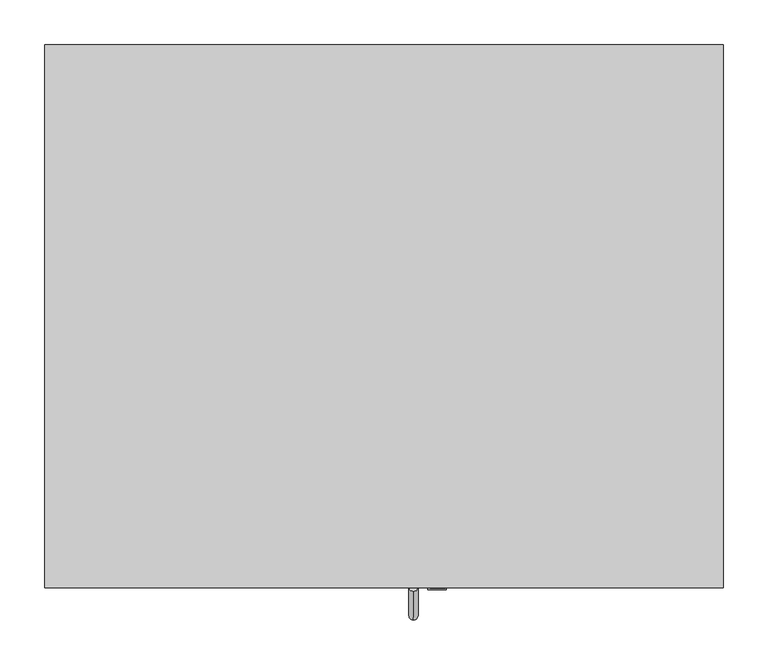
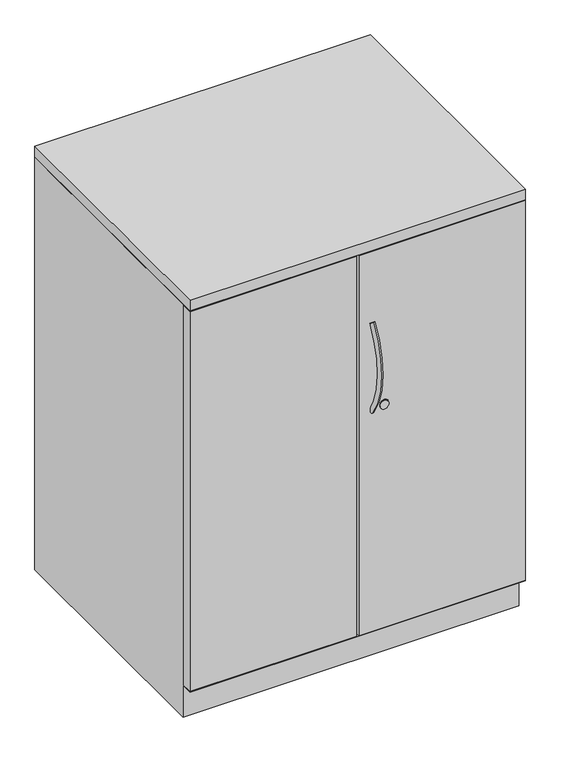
"""IFC4 building model written with IfcOpenShell, lengths in millimetres: furniture geometry, Steelcase - Universal Storage - Cabinet - Storage - 40H-52H - Proud Steel : 40H x 23 1/8D x 30W."""

import ifcopenshell
import ifcopenshell.guid

model = None  # the IFC model being written
_history = None  # IfcOwnerHistory: only IFC2X3 demands one
_inside = {}  # id of a spatial element -> (the spatial element, [elements in it])
_under = {}  # id of a project, library or spatial element -> (it, [spatial elements below it])
_declared = {}  # id of a project -> (the project, [libraries it declares])
_typed = {}  # id of a type object -> (the type object, [elements of that type])
_made_of = {}  # id of a material, layer set ... -> (it, [elements and type objects made of it])


def new_model(schema):
    """Start an empty IFC model of exactly this schema.

    Asked for "IFC4X3", IfcOpenShell would pick the latest addendum, in which some entities
    have other attributes; the version numbers below select the first issue.
    IFC2X3 requires an IfcOwnerHistory on every rooted entity: one is made here for all.
    """
    global model, _history
    if schema == "IFC4X3":
        model = ifcopenshell.file(schema_version=(4, 3, 0, 0))
    else:
        model = ifcopenshell.file(schema=schema)
    _inside.clear()
    _under.clear()
    _declared.clear()
    _typed.clear()
    _made_of.clear()
    _history = None
    if model.schema == "IFC2X3":
        org = make("IfcOrganization", Name="unknown")
        user = make(
            "IfcPersonAndOrganization",
            ThePerson=make("IfcPerson", FamilyName="unknown"),
            TheOrganization=org,
        )
        app = make(
            "IfcApplication",
            ApplicationDeveloper=org,
            Version="unknown",
            ApplicationFullName="unknown",
            ApplicationIdentifier="unknown",
        )
        _history = make(
            "IfcOwnerHistory",
            OwningUser=user,
            OwningApplication=app,
            ChangeAction="ADDED",
            CreationDate=0,
        )
    return model


def make(cls, **values):
    """One entity of the class cls with the attributes given. An attribute that is None is left unset."""
    return model.create_entity(
        cls, **{name: value for name, value in values.items() if value is not None}
    )


def rooted(cls, **values):
    """An entity with a GlobalId (a new one), such as an element, a storey or a relation."""
    return make(cls, GlobalId=ifcopenshell.guid.new(), OwnerHistory=_history, **values)


def si_unit(unit_type, name, prefix=None):
    """IfcSIUnit, for example si_unit("LENGTHUNIT", "METRE", prefix="MILLI")."""
    return make("IfcSIUnit", UnitType=unit_type, Prefix=prefix, Name=name)


def assignment(units):
    """IfcUnitAssignment: the units of a project."""
    return None if units is None else make("IfcUnitAssignment", Units=units)


def point(xyz):
    """IfcCartesianPoint."""
    return None if xyz is None else make("IfcCartesianPoint", Coordinates=xyz)


def direction(xyz):
    """IfcDirection."""
    return None if xyz is None else make("IfcDirection", DirectionRatios=xyz)


def frame(location, z_axis=None, x_axis=None):
    """IfcAxis2Placement3D, a coordinate frame: its origin and axes. An axis left out is left unset."""
    return make(
        "IfcAxis2Placement3D",
        Location=point(location),
        Axis=direction(z_axis),
        RefDirection=direction(x_axis),
    )


def frame_2d(location, x_axis=None):
    """IfcAxis2Placement2D, a coordinate frame in the plane: its origin and x axis."""
    return make(
        "IfcAxis2Placement2D", Location=point(location), RefDirection=direction(x_axis)
    )


def origin():
    """The frame at (0, 0, 0) with its axes left unset."""
    return frame((0.0, 0.0, 0.0))


def place(relative_to, where):
    """IfcLocalPlacement: puts the frame where relative to a parent placement (None: the world)."""
    return make(
        "IfcLocalPlacement", PlacementRelTo=relative_to, RelativePlacement=where
    )


def context(
    kind, dimensions, precision=None, world=None, true_north=None, identifier=None
):
    """IfcGeometricRepresentationContext, for example the 3D "Model" context."""
    return make(
        "IfcGeometricRepresentationContext",
        ContextIdentifier=identifier,
        ContextType=kind,
        CoordinateSpaceDimension=dimensions,
        Precision=precision,
        WorldCoordinateSystem=world,
        TrueNorth=true_north,
    )


def project(units=None, contexts=None):
    """IfcProject with its units and contexts."""
    return rooted(
        "IfcProject",
        Name="project",
        RepresentationContexts=contexts,
        UnitsInContext=assignment(units),
    )


def spatial(cls, under=None, at=None, **own):
    """A site, building, storey or space (cls), placed at a placement, below another one or the project."""
    s = rooted(cls, ObjectPlacement=at, **own)
    if under is not None:
        _under.setdefault(under.id(), (under, []))[1].append(s)
    return s


def polyline(points):
    """IfcPolyline through the points."""
    return make("IfcPolyline", Points=[point(p) for p in points])


def circle_curve(where, radius):
    """IfcCircle in the frame where."""
    return make("IfcCircle", Position=where, Radius=radius)


def ellipse_curve(where, semi_axis1, semi_axis2):
    """IfcEllipse in the frame where."""
    return make(
        "IfcEllipse", Position=where, SemiAxis1=semi_axis1, SemiAxis2=semi_axis2
    )


def trimmed(basis, trim1, trim2, sense, master):
    """IfcTrimmedCurve: the piece of a basis curve between two trims."""
    return make(
        "IfcTrimmedCurve",
        BasisCurve=basis,
        Trim1=trim1,
        Trim2=trim2,
        SenseAgreement=sense,
        MasterRepresentation=master,
    )


def segment(curve, same_sense, transition):
    """IfcCompositeCurveSegment."""
    return make(
        "IfcCompositeCurveSegment",
        Transition=transition,
        SameSense=same_sense,
        ParentCurve=curve,
    )


def composite_curve(segments, self_intersect=None):
    """IfcCompositeCurve: segments joined end to end."""
    return make("IfcCompositeCurve", Segments=segments, SelfIntersect=self_intersect)


def outline(outer, holes=None, kind="AREA"):
    """IfcArbitraryClosedProfileDef: a profile drawn as a closed curve; with holes, ...WithVoids."""
    if holes is None:
        return make("IfcArbitraryClosedProfileDef", ProfileType=kind, OuterCurve=outer)
    return make(
        "IfcArbitraryProfileDefWithVoids",
        ProfileType=kind,
        OuterCurve=outer,
        InnerCurves=holes,
    )


def extrude(swept, where, along, depth):
    """IfcExtrudedAreaSolid: the profile swept, set in the frame where, extruded along a direction by depth."""
    return make(
        "IfcExtrudedAreaSolid",
        SweptArea=swept,
        Position=where,
        ExtrudedDirection=direction(along),
        Depth=depth,
    )


def faces_of(points, faces, orient=None, outer=None):
    """IfcFace entities. A face is a list of loops; a loop is a list of indices into points, from 0.

    orient and outer hold one flag for each loop. By default every Orientation is true, the
    first loop of a face is its IfcFaceOuterBound and the others are IfcFaceBound.
    """
    made = []
    for i, loops in enumerate(faces):
        bounds = []
        for j, loop in enumerate(loops):
            is_outer = j == 0 if outer is None else outer[i][j]
            bounds.append(
                make(
                    "IfcFaceOuterBound" if is_outer else "IfcFaceBound",
                    Bound=make("IfcPolyLoop", Polygon=[points[k] for k in loop]),
                    Orientation=True if orient is None else orient[i][j],
                )
            )
        made.append(make("IfcFace", Bounds=bounds))
    return made


def faceted_brep(points, faces, orient=None, outer=None, voids=None):
    """IfcFacetedBrep: a solid bounded by flat faces; with voids (closed shells), ...WithVoids."""
    shared = [point(p) for p in points]
    hull = make("IfcClosedShell", CfsFaces=faces_of(shared, faces, orient, outer))
    if voids is None:
        return make("IfcFacetedBrep", Outer=hull)
    return make(
        "IfcFacetedBrepWithVoids",
        Outer=hull,
        Voids=[
            make(cls, CfsFaces=faces_of(shared, fs, o, b)) for cls, fs, o, b in voids
        ],
    )


def shape(context_of_items, identifier, shape_type, items):
    """IfcShapeRepresentation: the items that make up one representation, for example the "Body"."""
    return make(
        "IfcShapeRepresentation",
        ContextOfItems=context_of_items,
        RepresentationIdentifier=identifier,
        RepresentationType=shape_type,
        Items=items,
    )


def source(mapping_origin, context_of_items, identifier, shape_type, items):
    """IfcRepresentationMap: a shape defined once, which mapped items show again and again."""
    return make(
        "IfcRepresentationMap",
        MappingOrigin=mapping_origin,
        MappedRepresentation=shape(context_of_items, identifier, shape_type, items),
    )


def transform(
    local_origin,
    x_axis=None,
    y_axis=None,
    z_axis=None,
    scale=None,
    scale2=None,
    scale3=None,
    uniform=True,
):
    """IfcCartesianTransformationOperator3D, or its non-uniform kind. x_axis, y_axis, z_axis: its Axis1, 2, 3."""
    if uniform:
        return make(
            "IfcCartesianTransformationOperator3D",
            Axis1=direction(x_axis),
            Axis2=direction(y_axis),
            LocalOrigin=point(local_origin),
            Scale=scale,
            Axis3=direction(z_axis),
        )
    return make(
        "IfcCartesianTransformationOperator3DnonUniform",
        Axis1=direction(x_axis),
        Axis2=direction(y_axis),
        LocalOrigin=point(local_origin),
        Scale=scale,
        Axis3=direction(z_axis),
        Scale2=scale2,
        Scale3=scale3,
    )


def mapped(mapping_source, mapping_target):
    """IfcMappedItem: shows the shape of a source again, moved by a transform."""
    return make(
        "IfcMappedItem", MappingSource=mapping_source, MappingTarget=mapping_target
    )


def made_of(thing, what):
    """Note that an element or type object is made of a material, layer set ...; save() writes the relation."""
    if what is not None:
        _made_of.setdefault(what.id(), (what, []))[1].append(thing)
    return thing


def element(
    cls,
    number,
    at=None,
    inside=None,
    cuts=None,
    type_object=None,
    material=None,
    context=None,
    identifier="Body",
    shape_type=None,
    held_by="IfcProductDefinitionShape",
    body=None,
    shapes=None,
    **own,
):
    """One element of the class cls, such as IfcWall. Its Tag is "e" and its number.

    at: its placement. inside: the storey or other place that contains it. cuts: it is an
    opening in that element (IfcRelVoidsElement). A single representation is given by context,
    identifier, shape_type and body (its items); several are given by shapes. held_by: the class
    of the entity that holds the representations. save() writes the other relations.
    """
    e = rooted(cls, Tag="e%d" % number, ObjectPlacement=at, **own)
    if body is not None:
        shapes = [shape(context, identifier, shape_type, body)]
    if shapes is not None:
        e.Representation = make(held_by, Representations=shapes)
    if inside is not None:
        _inside.setdefault(inside.id(), (inside, []))[1].append(e)
    if cuts is not None:
        rooted(
            "IfcRelVoidsElement", RelatingBuildingElement=cuts, RelatedOpeningElement=e
        )
    if type_object is not None:
        _typed.setdefault(type_object.id(), (type_object, []))[1].append(e)
    return made_of(e, material)


def aggregate(whole, parts):
    """IfcRelAggregates: a whole, such as a stair, and the parts it consists of."""
    return rooted("IfcRelAggregates", RelatingObject=whole, RelatedObjects=parts)


def save(model, path):
    """Write the relations noted so far, then the file.

    IfcRelAggregates (storeys below a building ...), IfcRelContainedInSpatialStructure (elements
    in a storey), IfcRelDefinesByType, IfcRelAssociatesMaterial and IfcRelDeclares: one each for
    every whole, place, type object, material and project.
    """
    for whole, parts in _under.values():
        aggregate(whole, parts)
    for where, things in _inside.values():
        rooted(
            "IfcRelContainedInSpatialStructure",
            RelatedElements=things,
            RelatingStructure=where,
        )
    for kind, things in _typed.values():
        rooted("IfcRelDefinesByType", RelatedObjects=things, RelatingType=kind)
    for what, things in _made_of.values():
        rooted("IfcRelAssociatesMaterial", RelatedObjects=things, RelatingMaterial=what)
    for by, libraries in _declared.values():
        rooted("IfcRelDeclares", RelatingContext=by, RelatedDefinitions=libraries)
    model.write(path)


def plane_surface(at):
    """IfcPlane: the flat surface through the origin of the frame at, square to its z axis."""
    return make("IfcPlane", Position=at)


def revolved_surface(curve, axis_point, axis_direction):
    """IfcSurfaceOfRevolution: the curve turned about the line through axis_point along axis_direction."""
    return make(
        "IfcSurfaceOfRevolution",
        SweptCurve=make("IfcArbitraryOpenProfileDef", ProfileType="CURVE", Curve=curve),
        AxisPosition=make("IfcAxis1Placement", Location=point(axis_point), Axis=direction(axis_direction)),
    )


def advanced_brep(points, edges, surfaces, faces):
    """IfcAdvancedBrep: a solid bounded by faces that lie on surfaces and meet in shared edges.

    An edge is (start, end): straight between two places in points (the first is 0);
    or (start, end, curve); or (start, end, curve, False) where it runs against its curve.
    A face is (place in surfaces, loops), or (place, loops, False) where it looks against
    its surface's normal. A loop lists edges by number (the first is 1), with a minus sign
    where the edge is run from its end to its start. The first loop is the outer one.
    """
    corners = [point(p) for p in points]
    vertices = [make("IfcVertexPoint", VertexGeometry=c) for c in corners]
    made = []
    for start, end, *more in edges:
        made.append(
            make(
                "IfcEdgeCurve",
                EdgeStart=vertices[start],
                EdgeEnd=vertices[end],
                EdgeGeometry=more[0] if more else make("IfcPolyline", Points=[corners[start], corners[end]]),
                SameSense=more[1] if len(more) > 1 else True,
            )
        )
    hull = []
    for where, loops, *sense in faces:
        bounds = []
        for j, loop in enumerate(loops):
            ring = [make("IfcOrientedEdge", EdgeElement=made[abs(k) - 1], Orientation=k > 0) for k in loop]
            bounds.append(
                make(
                    "IfcFaceOuterBound" if j == 0 else "IfcFaceBound",
                    Bound=make("IfcEdgeLoop", EdgeList=ring),
                    Orientation=True,
                )
            )
        hull.append(make("IfcAdvancedFace", Bounds=bounds, FaceSurface=surfaces[where], SameSense=sense[0] if sense else True))
    return make("IfcAdvancedBrep", Outer=make("IfcClosedShell", CfsFaces=hull))


def furniture_52cae02b(model_context):
    return source(origin(), model_context, "Body", "SolidModel", [
        extrude(outline(polyline([(762.0, 0.0), (762.0, -609.6), (0.0, -609.6), (0.0, 0.0), (762.0, 0.0)])), frame((0.0, 0.0, 990.6), z_axis=(0.0, 0.0, 1.0), x_axis=(1.0, 0.0, 0.0)), (0.0, 0.0, 1.0), 25.4),
        extrude(outline(polyline([(0.0, -609.6), (0.0, -584.2008418), (378.46, -584.2008418), (378.46, -609.6), (0.0, -609.6)])), frame((0.0, 0.0, 77.724), z_axis=(0.0, 0.0, 1.0), x_axis=(1.0, 0.0, 0.0)), (0.0, 0.0, 1.0), 911.352),
        extrude(outline(polyline([(762.0, -584.2008418), (762.0, -609.6), (383.54, -609.6), (383.54, -584.2008418), (762.0, -584.2008418)])), frame((0.0, 0.0, 77.724), z_axis=(0.0, 0.0, 1.0), x_axis=(1.0, 0.0, 0.0)), (0.0, 0.0, 1.0), 911.352),
        extrude(outline(composite_curve([segment(trimmed(circle_curve(frame_2d((612.902, 440.5418131)), 10.16), [point((612.902, 450.7018131))], [point((612.902, 430.3818131))], False, "CARTESIAN"), True, "CONTINUOUS"), segment(trimmed(circle_curve(frame_2d((612.902, 440.5418131)), 10.16), [point((612.902, 430.3818131))], [point((612.902, 450.7018131))], False, "CARTESIAN"), True, "CONTINUOUS")], self_intersect=False)), frame((0.0, -612.013031, 0.0), z_axis=(0.0, 1.0, 0.0), x_axis=(0.0, 0.0, 1.0)), (0.0, 0.0, 1.0), 2.413031),
        advanced_brep(
        [(414.0783765, -605.0224318, 814.9196018), (414.0783765, -613.6221633, 820.5900503), (414.0783765, -602.5951581, 607.1931915), (414.0783765, -611.0600418, 601.3233437)],
        [
            (0, 1, circle_curve(frame((414.0783765, -609.3222976, 817.7548261), z_axis=(0.0, 0.5504787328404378, 0.83484918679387), x_axis=(0.0, -0.83484918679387, 0.5504787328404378)), 5.1504701)),
            (1, 0, circle_curve(frame((414.0783765, -609.3222976, 817.7548261), z_axis=(0.0, 0.5504787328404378, 0.83484918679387), x_axis=(0.0, -0.83484918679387, 0.5504787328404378)), 5.1504701)),
            (2, 3, circle_curve(frame((414.0783765, -606.8276, 604.2582676), z_axis=(0.0, 0.5698361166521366, -0.8217583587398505), x_axis=(0.0, -0.8217583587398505, -0.5698361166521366)), 5.1504701)),
            (3, 2, circle_curve(frame((414.0783765, -606.8276, 604.2582676), z_axis=(0.0, 0.5698361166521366, -0.8217583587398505), x_axis=(0.0, -0.8217583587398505, -0.5698361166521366)), 5.1504701)),
            (3, 1, circle_curve(frame((414.0783765, -450.226461, 712.8509992), z_axis=(-1.0, 0.0, 0.0), x_axis=(0.0, -0.83484918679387, 0.5504787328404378)), 195.7188256)),
            (0, 2, circle_curve(frame((414.0783765, -450.226461, 712.8509992), z_axis=(1.0, 0.0, 0.0), x_axis=(0.0, -0.83484918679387, 0.5504787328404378)), 185.4178854)),
        ],
        [
            plane_surface(frame((414.0783765, -609.3222976, 817.7548261), z_axis=(0.0, 0.5504787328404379, 0.83484918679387), x_axis=(-1.0, 0.0, 0.0))),
            plane_surface(frame((414.0783765, -606.8276, 604.2582676), z_axis=(0.0, 0.5698361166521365, -0.8217583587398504), x_axis=(-1.0, 0.0, 0.0))),
            revolved_surface(trimmed(ellipse_curve(frame((414.0783765, -609.3222976, 817.7548261), z_axis=(0.0, 0.5504787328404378, 0.83484918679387), x_axis=(0.0, -0.83484918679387, 0.5504787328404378)), 5.1504701, 5.1504701), [point((414.0783765, -605.0224318, 814.9196018))], [point((414.0783765, -613.6221633, 820.5900503))], True, "CARTESIAN"), (414.0783765, -450.226461, 712.8509992), (1.0, 0.0, 0.0)),
            revolved_surface(trimmed(ellipse_curve(frame((414.0783765, -609.3222976, 817.7548261), z_axis=(0.0, 0.5504787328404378, 0.83484918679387), x_axis=(0.0, -0.83484918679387, 0.5504787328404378)), 5.1504701, 5.1504701), [point((414.0783765, -613.6221633, 820.5900503))], [point((414.0783765, -605.0224318, 814.9196018))], True, "CARTESIAN"), (414.0783765, -450.226461, 712.8509992), (1.0, 0.0, 0.0)),
        ],
        [
            (0, [[1, 2]]),
            (1, [[3, 4]]),
            (2, [[5, -1, 6, -4]]),
            (3, [[-6, -2, -5, -3]]),
        ],
    ),
        extrude(outline(composite_curve([segment(trimmed(circle_curve(frame_2d((614.5669832, 440.8109835)), 9.7167829), [point((614.5669832, 450.5277664))], [point((614.5669832, 431.0942006))], False, "CARTESIAN"), True, "CONTINUOUS"), segment(trimmed(circle_curve(frame_2d((614.5669832, 440.8109835)), 9.7167829), [point((614.5669832, 431.0942006))], [point((614.5669832, 450.5277664))], False, "CARTESIAN"), True, "CONTINUOUS")], self_intersect=False)), frame((0.0, -610.2695275, 0.0), z_axis=(0.0, 1.0, 0.0), x_axis=(0.0, 0.0, 1.0)), (0.0, 0.0, 1.0), 0.6695275),
        faceted_brep([(762.0, 0.0, 0.0), (762.0, -582.6768432, 0.0), (0.0, -582.6768432, 0.0), (0.0, 0.0, 0.0), (0.0, 0.0, 989.076), (762.0, 0.0, 989.076), (0.0, -582.6768432, 76.2), (0.0, -609.6, 76.2), (0.0, -609.6, 77.724), (0.0, -582.6768432, 77.724), (0.0, -582.6768432, 989.076), (762.0, -582.6768432, 76.2), (762.0, -582.6768432, 989.076), (762.0, -582.6768432, 77.724), (762.0, -609.4738418, 77.724), (762.0, -609.6, 76.2), (736.6000242, -25.4000008, 989.076), (736.6000242, -582.6768432, 989.076), (25.3999758, -582.6768432, 989.076), (25.3999758, -25.4000008, 989.076), (736.6000242, -25.4000008, 77.724), (736.6000242, -582.6768432, 77.724), (25.3999758, -582.6768432, 77.724), (25.3999758, -25.4000008, 77.724), (4.6981334, -584.2008418, 77.724), (736.6000242, -584.2008418, 77.724)], [[[0, 1, 2, 3]], [[0, 3, 4, 5]], [[4, 3, 2, 6, 7, 8, 9, 10]], [[2, 1, 11, 6]], [[1, 0, 5, 12, 13, 14, 15, 11]], [[16, 17, 12, 5, 4, 10, 18, 19]], [[17, 16, 20, 21]], [[12, 17, 21, 13]], [[18, 10, 9, 22]], [[19, 18, 22, 23]], [[16, 19, 23, 20]], [[8, 24, 25, 14, 13, 21, 20, 23, 22, 9]], [[15, 7, 6, 11]], [[24, 8, 7]], [[25, 24, 7, 15]], [[14, 25, 15]]]),
    ])


if __name__ == "__main__":
    model = new_model("IFC4")
    model_context = context("Model", 3, world=origin())
    ifc_project = project(units=[si_unit("LENGTHUNIT", "METRE", prefix="MILLI")], contexts=[model_context])
    site = spatial("IfcSite", under=ifc_project)
    building = spatial("IfcBuilding", under=site)
    placement = place(None, origin())
    furniture_shape = furniture_52cae02b(model_context)
    element("IfcFurniture", 1, ObjectType="Steelcase - Universal Storage - Cabinet - Storage - 40H-52H - Proud Steel : 40H x 23 1/8D x 30W", at=placement, inside=building, context=model_context, shape_type="MappedRepresentation", body=[
        mapped(furniture_shape, transform((0.0, 0.0, 0.0), x_axis=(1.0, 0.0, 0.0), y_axis=(0.0, 1.0, 0.0), z_axis=(0.0, 0.0, 1.0))),
    ])
    save(model, "model.ifc")
